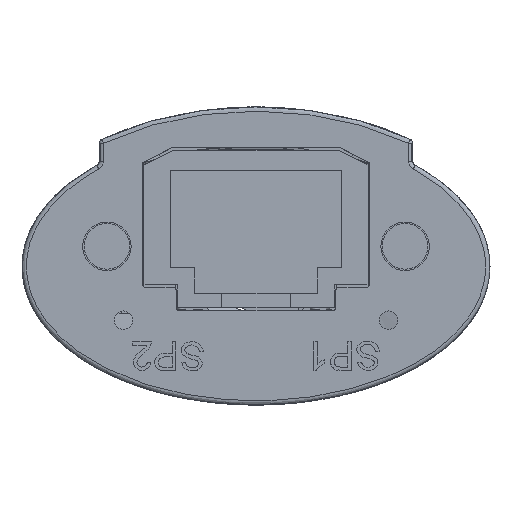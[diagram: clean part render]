
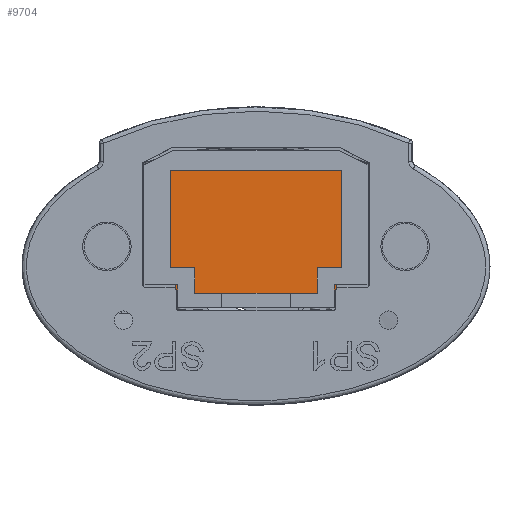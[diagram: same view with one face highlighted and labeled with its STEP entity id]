
A CAD part, left-side view. The second image highlights one B-rep face of the part: STEP entity #9704.
In plain terms, the highlighted planar face has unit normal (-1, 0, 0).
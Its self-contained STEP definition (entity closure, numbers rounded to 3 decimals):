
#6018=CARTESIAN_POINT('',(-43.22,-5.625,-2.87));
#6019=VERTEX_POINT('',#6018);
#6027=CARTESIAN_POINT('',(-43.22,5.625,-2.87));
#6028=VERTEX_POINT('',#6027);
#6029=CARTESIAN_POINT('',(-43.22,5.625,-2.87));
#6030=DIRECTION('',(0.0,-1.0,0.0));
#6031=VECTOR('',#6030,11.25);
#6032=LINE('',#6029,#6031);
#6033=EDGE_CURVE('',#6028,#6019,#6032,.T.);
#8341=CARTESIAN_POINT('',(-43.22,-4.3,-0.07));
#8342=VERTEX_POINT('',#8341);
#8343=CARTESIAN_POINT('',(-43.22,-6.,-0.07));
#8344=VERTEX_POINT('',#8343);
#8345=CARTESIAN_POINT('',(-43.22,-4.3,-0.07));
#8346=DIRECTION('',(0.0,-1.0,0.0));
#8347=VECTOR('',#8346,1.7);
#8348=LINE('',#8345,#8347);
#8349=EDGE_CURVE('',#8342,#8344,#8348,.T.);
#8372=CARTESIAN_POINT('',(-43.22,-6.,6.73));
#8373=VERTEX_POINT('',#8372);
#8374=CARTESIAN_POINT('',(-43.22,-6.,-0.07));
#8375=DIRECTION('',(0.0,0.0,1.0));
#8376=VECTOR('',#8375,6.8);
#8377=LINE('',#8374,#8376);
#8378=EDGE_CURVE('',#8344,#8373,#8377,.T.);
#8396=CARTESIAN_POINT('',(-43.22,6.,6.73));
#8397=VERTEX_POINT('',#8396);
#8398=CARTESIAN_POINT('',(-43.22,-6.,6.73));
#8399=DIRECTION('',(0.0,1.0,0.0));
#8400=VECTOR('',#8399,12.);
#8401=LINE('',#8398,#8400);
#8402=EDGE_CURVE('',#8373,#8397,#8401,.T.);
#8426=CARTESIAN_POINT('',(-43.22,6.,-0.07));
#8427=VERTEX_POINT('',#8426);
#8428=CARTESIAN_POINT('',(-43.22,6.,6.73));
#8429=DIRECTION('',(0.0,0.0,-1.0));
#8430=VECTOR('',#8429,6.8);
#8431=LINE('',#8428,#8430);
#8432=EDGE_CURVE('',#8397,#8427,#8431,.T.);
#8450=CARTESIAN_POINT('',(-43.22,4.3,-0.07));
#8451=VERTEX_POINT('',#8450);
#8452=CARTESIAN_POINT('',(-43.22,6.,-0.07));
#8453=DIRECTION('',(0.0,-1.0,0.0));
#8454=VECTOR('',#8453,1.7);
#8455=LINE('',#8452,#8454);
#8456=EDGE_CURVE('',#8427,#8451,#8455,.T.);
#8482=CARTESIAN_POINT('',(-43.22,4.3,-1.27));
#8483=VERTEX_POINT('',#8482);
#8490=CARTESIAN_POINT('',(-43.22,4.3,-0.07));
#8491=DIRECTION('',(0.0,0.0,-1.0));
#8492=VECTOR('',#8491,1.2);
#8493=LINE('',#8490,#8492);
#8494=EDGE_CURVE('',#8451,#8483,#8493,.T.);
#8509=CARTESIAN_POINT('',(-43.22,-4.3,-1.27));
#8510=VERTEX_POINT('',#8509);
#8526=CARTESIAN_POINT('',(-43.22,-4.3,-1.27));
#8527=DIRECTION('',(0.0,0.0,1.0));
#8528=VECTOR('',#8527,1.2);
#8529=LINE('',#8526,#8528);
#8530=EDGE_CURVE('',#8510,#8342,#8529,.T.);
#8653=CARTESIAN_POINT('',(-43.22,-5.625,-1.27));
#8654=VERTEX_POINT('',#8653);
#8655=CARTESIAN_POINT('',(-43.22,-5.625,-1.27));
#8656=DIRECTION('',(0.0,1.0,0.0));
#8657=VECTOR('',#8656,1.325);
#8658=LINE('',#8655,#8657);
#8659=EDGE_CURVE('',#8654,#8510,#8658,.T.);
#8884=CARTESIAN_POINT('',(-43.22,5.625,-1.27));
#8885=VERTEX_POINT('',#8884);
#8893=CARTESIAN_POINT('',(-43.22,4.3,-1.27));
#8894=DIRECTION('',(0.0,1.0,0.0));
#8895=VECTOR('',#8894,1.325);
#8896=LINE('',#8893,#8895);
#8897=EDGE_CURVE('',#8483,#8885,#8896,.T.);
#9669=CARTESIAN_POINT('',(-43.22,-5.625,-2.87));
#9670=DIRECTION('',(0.0,0.0,1.0));
#9671=VECTOR('',#9670,1.6);
#9672=LINE('',#9669,#9671);
#9673=EDGE_CURVE('',#6019,#8654,#9672,.T.);
#9680=CARTESIAN_POINT('',(-43.22,-5.625,-2.87));
#9681=DIRECTION('',(-1.0,0.0,0.0));
#9682=DIRECTION('',(0.0,0.0,1.0));
#9683=AXIS2_PLACEMENT_3D('',#9680,#9681,#9682);
#9684=PLANE('',#9683);
#9685=ORIENTED_EDGE('',*,*,#8897,.T.);
#9686=CARTESIAN_POINT('',(-43.22,5.625,-2.87));
#9687=DIRECTION('',(0.0,0.0,1.0));
#9688=VECTOR('',#9687,1.6);
#9689=LINE('',#9686,#9688);
#9690=EDGE_CURVE('',#6028,#8885,#9689,.T.);
#9691=ORIENTED_EDGE('',*,*,#9690,.F.);
#9692=ORIENTED_EDGE('',*,*,#6033,.T.);
#9693=ORIENTED_EDGE('',*,*,#9673,.T.);
#9694=ORIENTED_EDGE('',*,*,#8659,.T.);
#9695=ORIENTED_EDGE('',*,*,#8530,.T.);
#9696=ORIENTED_EDGE('',*,*,#8349,.T.);
#9697=ORIENTED_EDGE('',*,*,#8378,.T.);
#9698=ORIENTED_EDGE('',*,*,#8402,.T.);
#9699=ORIENTED_EDGE('',*,*,#8432,.T.);
#9700=ORIENTED_EDGE('',*,*,#8456,.T.);
#9701=ORIENTED_EDGE('',*,*,#8494,.T.);
#9702=EDGE_LOOP('',(#9685,#9691,#9692,#9693,#9694,#9695,#9696,#9697,#9698,#9699,#9700,#9701));
#9703=FACE_OUTER_BOUND('',#9702,.T.);
#9704=ADVANCED_FACE('',(#9703),#9684,.T.);
